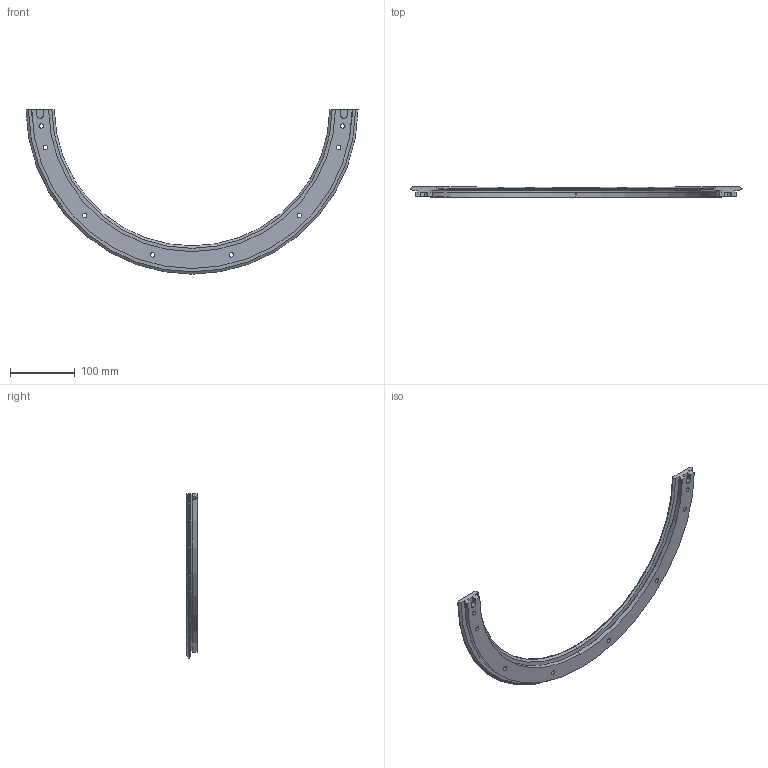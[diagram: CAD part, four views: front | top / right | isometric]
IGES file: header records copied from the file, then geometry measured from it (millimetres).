
Start section: 3D InterOp IGES (v. 2019 1.0.2), Spatial Corp. Copyright (c) 1999-2017.
Global section: file name: TR44 468 R180.igs; native system: Spatial Corp.; preprocessor: 3D InterOp GENERIC/IGES 3.0; author: Noname; organization: Noname; date: 20220628.092402; units: millimetre
Bounding box: 511.58 x 15.5 x 253.31 mm (x, y, z)
Surface area: 92721.4 mm2 (no closed solid volume)
Topology: 0 solids, 0 shells, 117 faces, 590 edges, 590 vertices
Faces by surface type: revolution 63, extrusion 54
